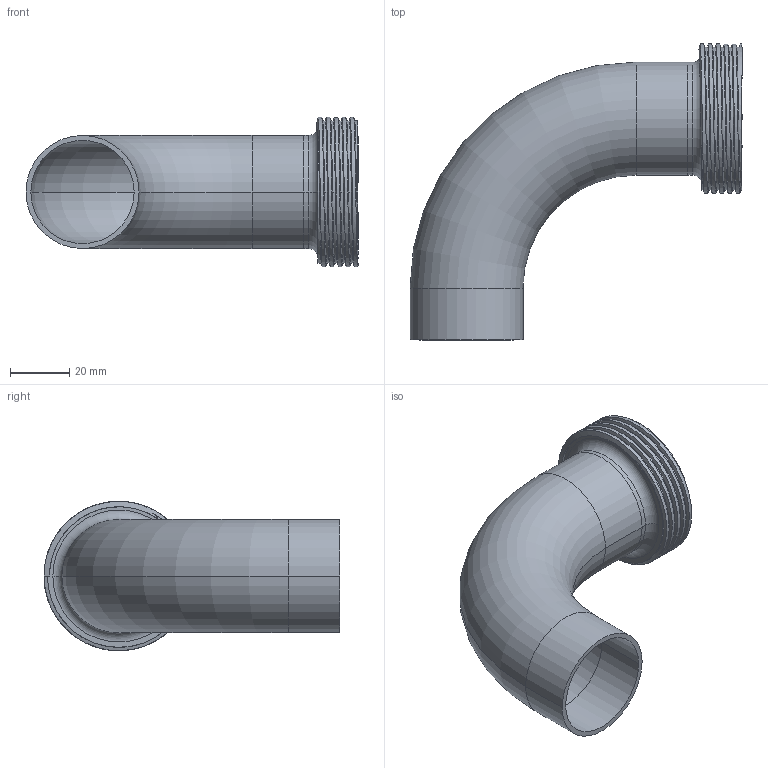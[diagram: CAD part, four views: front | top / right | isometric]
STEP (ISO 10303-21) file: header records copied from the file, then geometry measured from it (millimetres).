
FILE_DESCRIPTION (( 'STEP AP203' ), '1' );
FILE_NAME ('E2T1.5.STEP', '2018-05-02T13:34:47', ( 'vneprd' ), ( 'Microsoft' ), 'SwSTEP 2.0', 'SolidWorks 2014', '' );
FILE_SCHEMA (( 'CONFIG_CONTROL_DESIGN' ));
Length unit declared in the file: inch
Products named in the file (3): E2T1.5; E2S1.5; 15TR1.5
Assembly tree (2 placements, depth 2):
  E2T1.5
    E2S1.5
    15TR1.5
Bounding box: 111.94 x 99.8 x 50.39 mm (x, y, z)
Volume: 36575.4 mm3; surface area: 36349.4 mm2
Topology: 2 solids, 2 shells, 43 faces, 101 edges, 63 vertices
Faces by surface type: cylinder 24, plane 7, torus 6, bspline 4, cone 2
Entity records: 2778 total; most frequent: CARTESIAN_POINT 1538, ORIENTED_EDGE 202, DIRECTION 199, EDGE_CURVE 101, AXIS2_PLACEMENT_3D 82, VERTEX_POINT 63, EDGE_LOOP 48, ADVANCED_FACE 43
